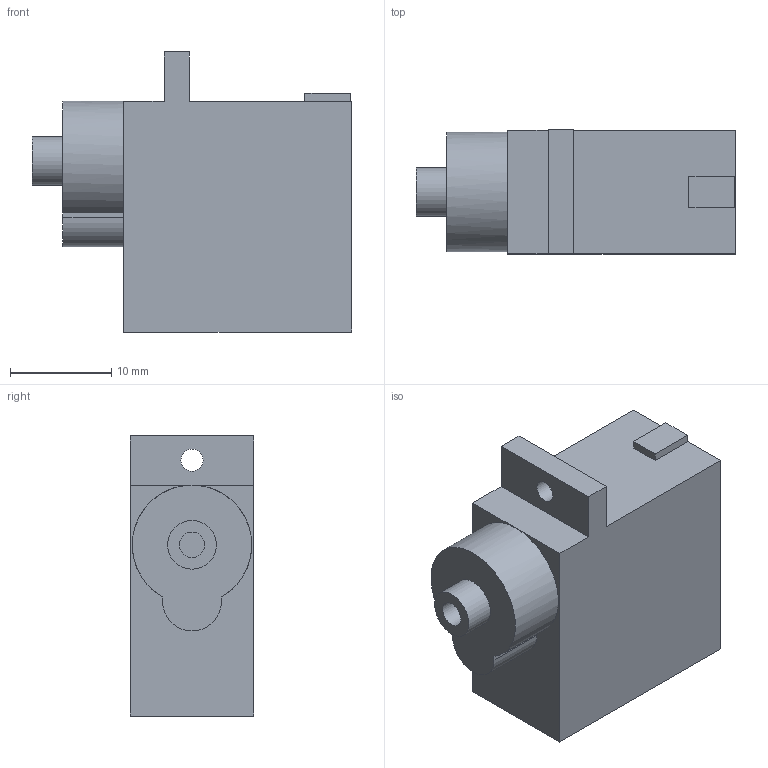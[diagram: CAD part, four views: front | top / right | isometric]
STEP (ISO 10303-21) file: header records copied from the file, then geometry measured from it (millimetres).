
FILE_DESCRIPTION(('Open CASCADE Model'),'2;1');
FILE_NAME('Open CASCADE Shape Model','2026-11-23T18:10:16',('Author'),( 'Open CASCADE'),'Open CASCADE STEP processor 8.0','build123d', 'Unknown');
FILE_SCHEMA(('AUTOMOTIVE_DESIGN { 1 0 10303 214 1 1 1 1 }'));
Length unit declared in the file: millimetre
Products named in the file (1): SOLID
Bounding box: 31.5 x 12.2 x 27.65 mm (x, y, z)
Volume: 7171.1 mm3; surface area: 2626.3 mm2
Topology: 1 solids, 1 shells, 25 faces, 59 edges, 39 vertices
Faces by surface type: plane 20, cylinder 5
Full cylindrical faces by diameter (mm): 2.2 x1, 2.5 x1, 4.8 x1
Entity records: 1479 total; most frequent: CARTESIAN_POINT 265, DIRECTION 218, LINE 133, VECTOR 133, ORIENTED_EDGE 118, PCURVE 118, DEFINITIONAL_REPRESENTATION 118, EDGE_CURVE 59
